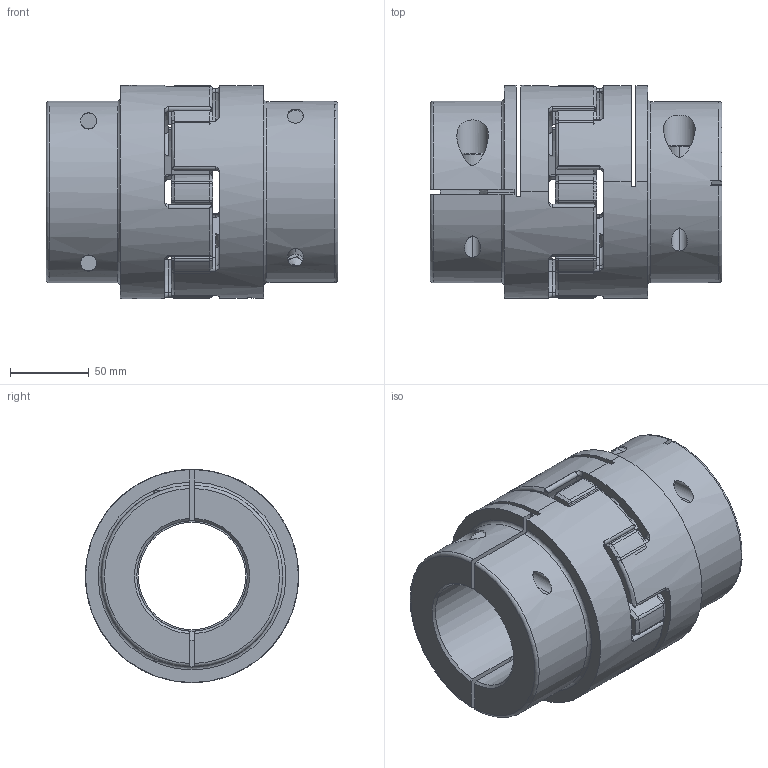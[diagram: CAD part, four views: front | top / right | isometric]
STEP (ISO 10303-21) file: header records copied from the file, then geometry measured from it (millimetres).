
FILE_DESCRIPTION (( 'STEP AP214' ), '1' );
FILE_NAME ('SJC-135C ASSY.STEP', '2016-03-16T09:08:27', ( '' ), ( '' ), 'SwSTEP 2.0', 'SolidWorks 2015', '' );
FILE_SCHEMA (( 'AUTOMOTIVE_DESIGN' ));
Length unit declared in the file: millimetre
Products named in the file (1): SJC-135C ASSY
Bounding box: 185 x 135 x 135 mm (x, y, z)
Surface area: 206533.9 mm2 (no closed solid volume)
Topology: 0 solids, 11 shells, 371 faces, 1182 edges, 797 vertices
Faces by surface type: cylinder 133, cone 101, plane 75, torus 62
Entity records: 18725 total; most frequent: CARTESIAN_POINT 4091, DIRECTION 2423, ORIENTED_EDGE 1984, EDGE_CURVE 1174, AXIS2_PLACEMENT_3D 1017, VERTEX_POINT 797, CIRCLE 645, EDGE_LOOP 408
